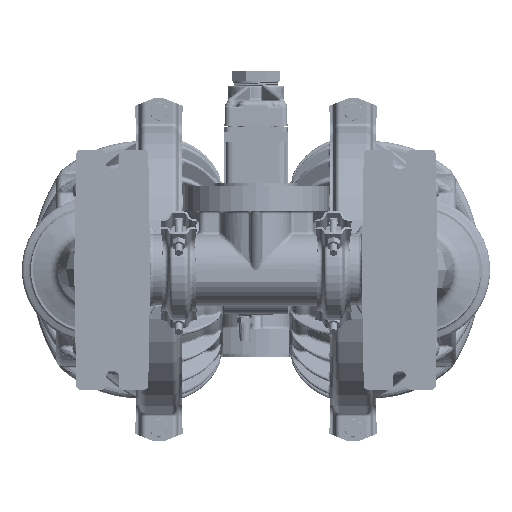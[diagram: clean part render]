
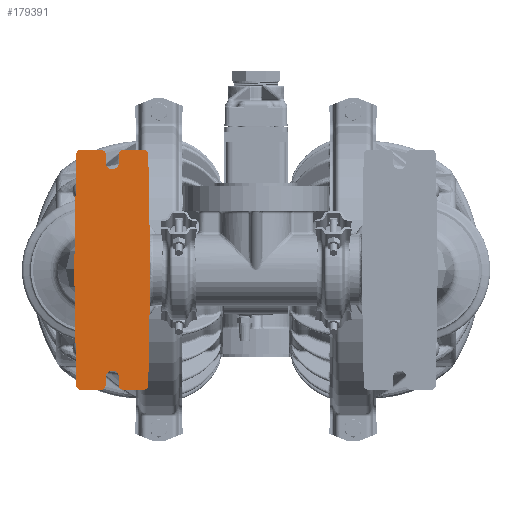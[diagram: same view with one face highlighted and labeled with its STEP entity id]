
A CAD part, front view. The second image highlights one B-rep face of the part: STEP entity #179391.
In plain terms, the highlighted planar face has unit normal (0, -1, 0).
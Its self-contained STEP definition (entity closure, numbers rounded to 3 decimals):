
#33131=CARTESIAN_POINT('',(-4.677,-15.58,4.812));
#33132=DIRECTION('',(0.,-1.,0.));
#33133=DIRECTION('',(1.,0.,0.017));
#33134=AXIS2_PLACEMENT_3D('',#33131,#33132,#33133);
#33160=CARTESIAN_POINT('',(-5.527,-15.58,4.812));
#33161=DIRECTION('',(0.,-1.,0.));
#33162=DIRECTION('',(0.,0.,1.));
#33163=AXIS2_PLACEMENT_3D('',#33160,#33161,#33162);
#33173=DIRECTION('',(-1.,0.,0.));
#33174=VECTOR('',#33173,0.85);
#33175=CARTESIAN_POINT('',(-4.677,-15.58,-5.));
#33176=LINE('',#33175,#33174);
#33177=DIRECTION('',(0.,0.,1.));
#33178=VECTOR('',#33177,0.342);
#33179=CARTESIAN_POINT('',(-5.715,-15.58,-4.812));
#33180=LINE('',#33179,#33178);
#33181=CARTESIAN_POINT('',(-5.99,-15.58,-4.47));
#33182=DIRECTION('',(0.,-1.,0.));
#33183=DIRECTION('',(1.,0.,0.));
#33184=AXIS2_PLACEMENT_3D('',#33181,#33182,#33183);
#33186=DIRECTION('',(0.,0.,-1.));
#33187=VECTOR('',#33186,0.342);
#33188=CARTESIAN_POINT('',(-6.265,-15.58,-4.47));
#33189=LINE('',#33188,#33187);
#33190=DIRECTION('',(-1.,0.,0.));
#33191=VECTOR('',#33190,0.85);
#33192=CARTESIAN_POINT('',(-6.453,-15.58,-5.));
#33193=LINE('',#33192,#33191);
#33194=DIRECTION('',(-0.017,0.,1.));
#33195=VECTOR('',#33194,4.816);
#33196=CARTESIAN_POINT('',(-7.491,-15.58,-4.815));
#33197=LINE('',#33196,#33195);
#33198=DIRECTION('',(0.017,0.,1.));
#33199=VECTOR('',#33198,4.816);
#33200=CARTESIAN_POINT('',(-7.575,-15.58,0.));
#33201=LINE('',#33200,#33199);
#33202=DIRECTION('',(1.,0.,0.));
#33203=VECTOR('',#33202,0.85);
#33204=CARTESIAN_POINT('',(-7.303,-15.58,5.));
#33205=LINE('',#33204,#33203);
#33206=DIRECTION('',(0.,0.,-1.));
#33207=VECTOR('',#33206,0.342);
#33208=CARTESIAN_POINT('',(-6.265,-15.58,4.812));
#33209=LINE('',#33208,#33207);
#33210=CARTESIAN_POINT('',(-5.99,-15.58,4.47));
#33211=DIRECTION('',(0.,-1.,0.));
#33212=DIRECTION('',(-1.,0.,0.));
#33213=AXIS2_PLACEMENT_3D('',#33210,#33211,#33212);
#33215=DIRECTION('',(0.,0.,1.));
#33216=VECTOR('',#33215,0.342);
#33217=CARTESIAN_POINT('',(-5.715,-15.58,4.47));
#33218=LINE('',#33217,#33216);
#33219=DIRECTION('',(1.,0.,0.));
#33220=VECTOR('',#33219,0.85);
#33221=CARTESIAN_POINT('',(-5.527,-15.58,5.));
#33222=LINE('',#33221,#33220);
#33223=DIRECTION('',(0.017,0.,-1.));
#33224=VECTOR('',#33223,4.816);
#33225=CARTESIAN_POINT('',(-4.489,-15.58,4.815));
#33226=LINE('',#33225,#33224);
#33227=DIRECTION('',(-0.017,0.,-1.));
#33228=VECTOR('',#33227,4.816);
#33229=CARTESIAN_POINT('',(-4.405,-15.58,0.));
#33230=LINE('',#33229,#33228);
#33249=CARTESIAN_POINT('',(-4.677,-15.58,-4.812));
#33250=DIRECTION('',(0.,-1.,0.));
#33251=DIRECTION('',(0.,0.,-1.));
#33252=AXIS2_PLACEMENT_3D('',#33249,#33250,#33251);
#35715=CARTESIAN_POINT('',(-7.303,-15.58,4.812));
#35716=DIRECTION('',(0.,-1.,0.));
#35717=DIRECTION('',(0.,0.,1.));
#35718=AXIS2_PLACEMENT_3D('',#35715,#35716,#35717);
#35750=CARTESIAN_POINT('',(-7.303,-15.58,-4.812));
#35751=DIRECTION('',(0.,-1.,0.));
#35752=DIRECTION('',(-1.,0.,-0.017));
#35753=AXIS2_PLACEMENT_3D('',#35750,#35751,#35752);
#35779=CARTESIAN_POINT('',(-6.453,-15.58,-4.812));
#35780=DIRECTION('',(0.,-1.,0.));
#35781=DIRECTION('',(0.,0.,-1.));
#35782=AXIS2_PLACEMENT_3D('',#35779,#35780,#35781);
#35932=CARTESIAN_POINT('',(-5.527,-15.58,-4.812));
#35933=DIRECTION('',(0.,-1.,0.));
#35934=DIRECTION('',(-1.,0.,0.));
#35935=AXIS2_PLACEMENT_3D('',#35932,#35933,#35934);
#35983=CARTESIAN_POINT('',(-6.453,-15.58,4.812));
#35984=DIRECTION('',(0.,-1.,0.));
#35985=DIRECTION('',(1.,0.,0.));
#35986=AXIS2_PLACEMENT_3D('',#35983,#35984,#35985);
#130786=CARTESIAN_POINT('',(-6.265,-15.58,4.47));
#130787=CARTESIAN_POINT('',(-5.715,-15.58,4.47));
#130788=VERTEX_POINT('',#130786);
#130789=VERTEX_POINT('',#130787);
#130790=CARTESIAN_POINT('',(-5.715,-15.58,-4.47));
#130791=CARTESIAN_POINT('',(-6.265,-15.58,-4.47));
#130792=VERTEX_POINT('',#130790);
#130793=VERTEX_POINT('',#130791);
#130841=CARTESIAN_POINT('',(-7.575,-15.58,0.));
#130843=VERTEX_POINT('',#130841);
#130847=CARTESIAN_POINT('',(-4.405,-15.58,0.));
#130848=VERTEX_POINT('',#130847);
#132806=CARTESIAN_POINT('',(-4.489,-15.58,-4.815));
#132808=VERTEX_POINT('',#132806);
#132810=CARTESIAN_POINT('',(-4.677,-15.58,-5.));
#132811=VERTEX_POINT('',#132810);
#132813=CARTESIAN_POINT('',(-5.527,-15.58,-5.));
#132815=VERTEX_POINT('',#132813);
#132817=CARTESIAN_POINT('',(-5.715,-15.58,-4.812));
#132818=VERTEX_POINT('',#132817);
#132820=CARTESIAN_POINT('',(-6.265,-15.58,-4.812));
#132822=VERTEX_POINT('',#132820);
#132824=CARTESIAN_POINT('',(-6.453,-15.58,-5.));
#132825=VERTEX_POINT('',#132824);
#132827=CARTESIAN_POINT('',(-7.303,-15.58,-5.));
#132829=VERTEX_POINT('',#132827);
#132831=CARTESIAN_POINT('',(-7.491,-15.58,-4.815));
#132832=VERTEX_POINT('',#132831);
#132834=CARTESIAN_POINT('',(-7.491,-15.58,4.815));
#132836=VERTEX_POINT('',#132834);
#132838=CARTESIAN_POINT('',(-7.303,-15.58,5.));
#132839=VERTEX_POINT('',#132838);
#132841=CARTESIAN_POINT('',(-6.453,-15.58,5.));
#132843=VERTEX_POINT('',#132841);
#132845=CARTESIAN_POINT('',(-6.265,-15.58,4.812));
#132846=VERTEX_POINT('',#132845);
#132848=CARTESIAN_POINT('',(-5.715,-15.58,4.812));
#132850=VERTEX_POINT('',#132848);
#132852=CARTESIAN_POINT('',(-5.527,-15.58,5.));
#132853=VERTEX_POINT('',#132852);
#132855=CARTESIAN_POINT('',(-4.677,-15.58,5.));
#132857=VERTEX_POINT('',#132855);
#132859=CARTESIAN_POINT('',(-4.489,-15.58,4.815));
#132860=VERTEX_POINT('',#132859);
#179345=CARTESIAN_POINT('',(-5.99,-15.58,0.));
#179346=DIRECTION('',(0.,1.,0.));
#179347=DIRECTION('',(1.,0.,0.));
#179348=AXIS2_PLACEMENT_3D('',#179345,#179346,#179347);
#179349=PLANE('',#179348);
#179351=ORIENTED_EDGE('',*,*,#179350,.F.);
#179353=ORIENTED_EDGE('',*,*,#179352,.T.);
#179355=ORIENTED_EDGE('',*,*,#179354,.F.);
#179357=ORIENTED_EDGE('',*,*,#179356,.T.);
#179359=ORIENTED_EDGE('',*,*,#179358,.T.);
#179361=ORIENTED_EDGE('',*,*,#179360,.T.);
#179363=ORIENTED_EDGE('',*,*,#179362,.F.);
#179365=ORIENTED_EDGE('',*,*,#179364,.T.);
#179367=ORIENTED_EDGE('',*,*,#179366,.F.);
#179369=ORIENTED_EDGE('',*,*,#179368,.T.);
#179371=ORIENTED_EDGE('',*,*,#179370,.T.);
#179373=ORIENTED_EDGE('',*,*,#179372,.F.);
#179375=ORIENTED_EDGE('',*,*,#179374,.T.);
#179377=ORIENTED_EDGE('',*,*,#179376,.F.);
#179379=ORIENTED_EDGE('',*,*,#179378,.T.);
#179381=ORIENTED_EDGE('',*,*,#179380,.T.);
#179382=ORIENTED_EDGE('',*,*,#179336,.T.);
#179383=ORIENTED_EDGE('',*,*,#179325,.F.);
#179384=ORIENTED_EDGE('',*,*,#179310,.T.);
#179385=ORIENTED_EDGE('',*,*,#179295,.F.);
#179386=ORIENTED_EDGE('',*,*,#179280,.T.);
#179388=ORIENTED_EDGE('',*,*,#179387,.T.);
#179389=EDGE_LOOP('',(#179351,#179353,#179355,#179357,#179359,#179361,#179363,
#179365,#179367,#179369,#179371,#179373,#179375,#179377,#179379,#179381,#179382,
#179383,#179384,#179385,#179386,#179388));
#179390=FACE_OUTER_BOUND('',#179389,.F.);
#33135=CIRCLE('',#33134,0.188);
#33164=CIRCLE('',#33163,0.188);
#33185=CIRCLE('',#33184,0.275);
#33214=CIRCLE('',#33213,0.275);
#33253=CIRCLE('',#33252,0.188);
#35719=CIRCLE('',#35718,0.188);
#35754=CIRCLE('',#35753,0.188);
#35783=CIRCLE('',#35782,0.188);
#35936=CIRCLE('',#35935,0.188);
#35987=CIRCLE('',#35986,0.188);
#179280=EDGE_CURVE('',#132860,#130848,#33226,.T.);
#179295=EDGE_CURVE('',#132860,#132857,#33135,.T.);
#179310=EDGE_CURVE('',#132853,#132857,#33222,.T.);
#179325=EDGE_CURVE('',#132853,#132850,#33164,.T.);
#179336=EDGE_CURVE('',#130789,#132850,#33218,.T.);
#179350=EDGE_CURVE('',#132811,#132808,#33253,.T.);
#179352=EDGE_CURVE('',#132811,#132815,#33176,.T.);
#179354=EDGE_CURVE('',#132818,#132815,#35936,.T.);
#179356=EDGE_CURVE('',#132818,#130792,#33180,.T.);
#179358=EDGE_CURVE('',#130792,#130793,#33185,.T.);
#179360=EDGE_CURVE('',#130793,#132822,#33189,.T.);
#179362=EDGE_CURVE('',#132825,#132822,#35783,.T.);
#179364=EDGE_CURVE('',#132825,#132829,#33193,.T.);
#179366=EDGE_CURVE('',#132832,#132829,#35754,.T.);
#179368=EDGE_CURVE('',#132832,#130843,#33197,.T.);
#179370=EDGE_CURVE('',#130843,#132836,#33201,.T.);
#179372=EDGE_CURVE('',#132839,#132836,#35719,.T.);
#179374=EDGE_CURVE('',#132839,#132843,#33205,.T.);
#179376=EDGE_CURVE('',#132846,#132843,#35987,.T.);
#179378=EDGE_CURVE('',#132846,#130788,#33209,.T.);
#179380=EDGE_CURVE('',#130788,#130789,#33214,.T.);
#179387=EDGE_CURVE('',#130848,#132808,#33230,.T.);
#179391=ADVANCED_FACE('',(#179390),#179349,.F.);
